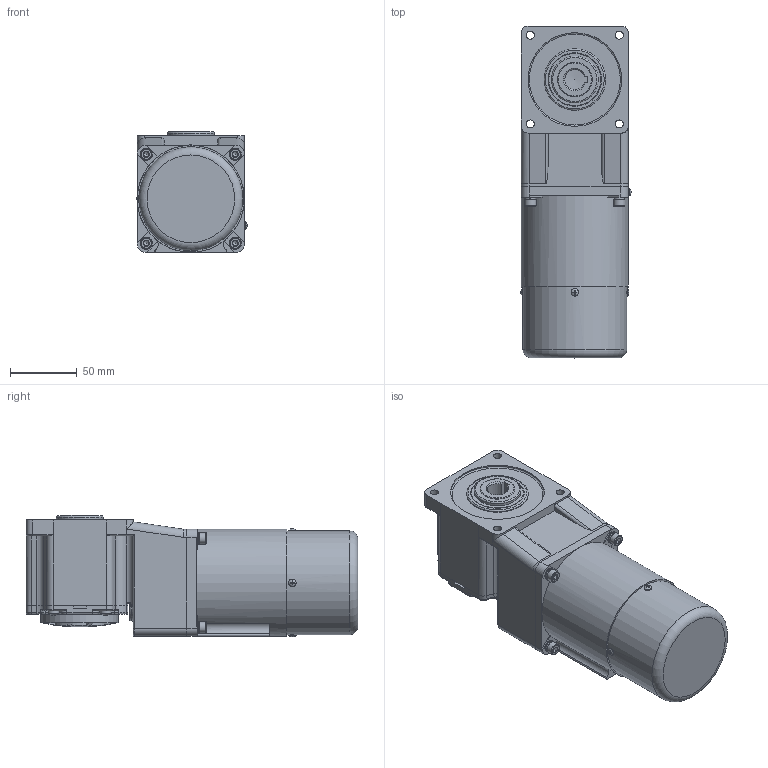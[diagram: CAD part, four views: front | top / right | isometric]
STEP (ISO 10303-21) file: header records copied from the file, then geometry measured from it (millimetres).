
FILE_DESCRIPTION(/* description */ (''),/* implementation_level */ '2;1');
FILE_NAME(/* name */ '80+中空直角-刹车-25W.stp',/* time_stamp */ '2022-09-27T10:25:39+08:00',/* author */ (''),/* organization */ (''),/* preprocessor_version */ 'ST-DEVELOPER v16.7',/* originating_system */ 'SIEMENS PLM Software NX 1899',/* authorisation */ '');
FILE_SCHEMA (('AP203_CONFIGURATION_CONTROLLED_3D_DESIGN_OF_MECHANICAL_PARTS_AND_ASSEMBLIES_MIM_LF { 1 0 10303 403 2 1 2}'));
Length unit declared in the file: millimetre
Products named in the file (1): yf1815905F60ugf4
Bounding box: 82.43 x 248 x 90.84 mm (x, y, z)
Volume: 1311263 mm3; surface area: 124606.2 mm2
Topology: 16 solids, 16 shells, 719 faces, 1695 edges, 1045 vertices
Faces by surface type: plane 378, cylinder 205, torus 60, cone 48, bspline 16, sphere 12
Full cylindrical faces by diameter (mm): 2.5 x2, 3.5 x2, 4.2 x4, 4.826 x4, 5 x8, 5.3 x4, 5.6 x5, 6 x8, 8 x4, 8.5 x4, 9 x4, 25 x1, 26 x2, 35 x1, 40 x2, 40.5 x1, 46 x1, 52 x1, 52.5 x1, 56 x1, 58 x1, 70 x1, 76 x2, 77.5 x1, 80 x1
Entity records: 21839 total; most frequent: CARTESIAN_POINT 4762, DIRECTION 3348, ORIENTED_EDGE 3012, EDGE_CURVE 1506, AXIS2_PLACEMENT_3D 1311, VERTEX_POINT 989, EDGE_LOOP 911, LINE 726
